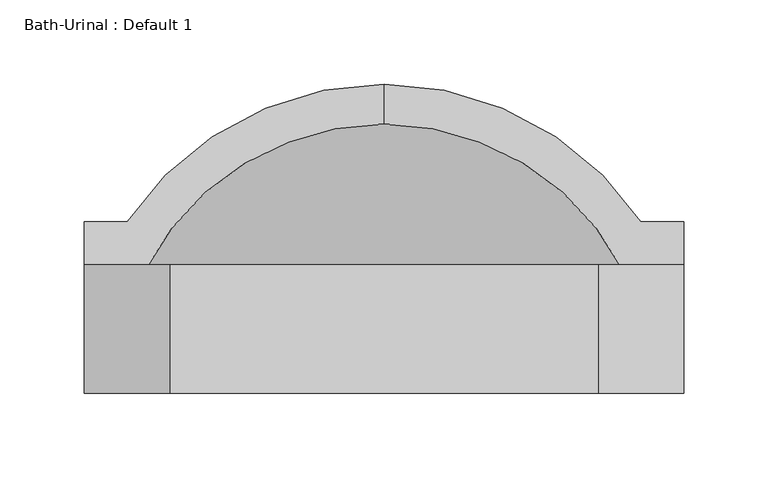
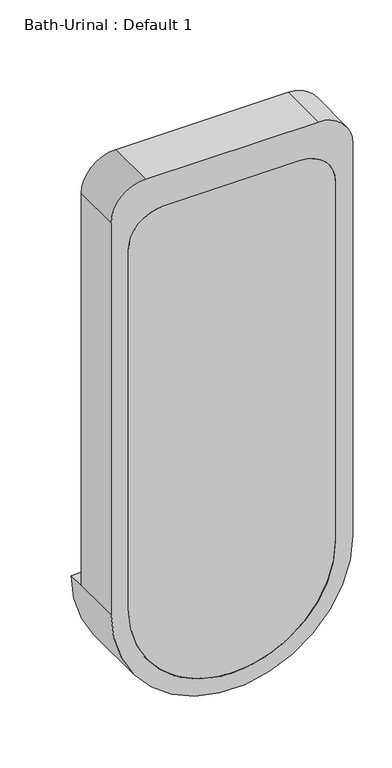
"""IFC4 building model written with IfcOpenShell, lengths in millimetres: flow terminal geometry, Bath-Urinal : Default 1."""

from ifc_helpers import new_model, si_unit, point, frame, frame_2d, origin, place, context, project, spatial, polyline, circle_curve, ellipse_curve, trimmed, segment, composite_curve, outline, extrude, source, transform, mapped, element, save
from ifc_brep_helpers import plane_surface, cylinder_surface, revolved_surface, advanced_brep


def bath_urinal_default_1_1685b878(model_context):
    return source(origin(), model_context, "Body", "SolidModel", [
        advanced_brep(
        [(-109.0745999, 348.2620048, 610.0), (-109.0745999, 324.5447043, 610.0), (43.3254001, 211.9706063, 610.0), (43.3254001, 241.3, 610.0), (68.7254001, 241.3, 610.0), (68.7254001, 266.7, 610.0), (43.3254001, 266.7, 610.0), (-261.4745999, 266.7, 610.0), (-286.8745999, 266.7, 610.0), (-286.8745999, 241.3, 610.0), (-261.4745999, 241.3, 610.0), (-261.4745999, 211.9706063, 610.0), (-261.4745999, 165.1, 610.0), (43.3254001, 165.1, 610.0), (-286.8745999, 165.1, 610.0), (68.7254001, 165.1, 610.0), (68.7254001, 165.1, 1219.6), (17.9254001, 165.1, 1270.4), (-236.0745999, 165.1, 1270.4), (-286.8745999, 165.1, 1219.6), (-261.4745999, 165.1, 1168.8), (-210.6745999, 165.1, 1219.6), (-7.4745999, 165.1, 1219.6), (43.3254001, 165.1, 1168.8), (43.3254001, 241.3, 1168.8), (-7.4745999, 241.3, 1219.6), (-210.6745999, 241.3, 1219.6), (-261.4745999, 241.3, 1168.8), (-286.8745999, 241.3, 1219.6), (-236.0745999, 241.3, 1270.4), (17.9254001, 241.3, 1270.4), (68.7254001, 241.3, 1219.6)],
        [
            (0, 1),
            (1, 2, circle_curve(frame((-109.0745999, 165.1, 610.0), z_axis=(0.0, 0.0, -1.0), x_axis=(1.0, 0.0, 0.0)), 159.4447043)),
            (2, 3),
            (3, 4),
            (4, 5),
            (5, 6),
            (6, 0, circle_curve(frame((-109.0745999, 165.1, 610.0), z_axis=(0.0, 0.0, 1.0), x_axis=(1.0, 0.0, 0.0)), 183.1620048)),
            (0, 7, circle_curve(frame((-109.0745999, 165.1, 610.0), z_axis=(0.0, 0.0, 1.0), x_axis=(-1.0, 0.0, 0.0)), 183.1620048)),
            (7, 8),
            (8, 9),
            (9, 10),
            (10, 11),
            (11, 1, circle_curve(frame((-109.0745999, 165.1, 610.0), z_axis=(0.0, 0.0, -1.0), x_axis=(-1.0, 0.0, 0.0)), 159.4447043)),
            (11, 2, circle_curve(frame((-109.0745999, 211.9706063, 610.0), z_axis=(0.0, -1.0, 0.0), x_axis=(1.0, 0.0, 0.0)), 152.4)),
            (11, 12),
            (12, 13, circle_curve(frame((-109.0745999, 165.1, 610.0), z_axis=(0.0, -1.0, 0.0), x_axis=(1.0, 0.0, 0.0)), 152.4)),
            (13, 2),
            (14, 15, circle_curve(frame((-109.0745999, 165.1, 610.0), z_axis=(0.0, -1.0, 0.0), x_axis=(1.0, 0.0, 0.0)), 177.8)),
            (15, 16),
            (16, 17, circle_curve(frame((17.9254001, 165.1, 1219.6), z_axis=(0.0, -1.0, 0.0), x_axis=(-1.0, 0.0, 0.0)), 50.8)),
            (17, 18),
            (18, 19, circle_curve(frame((-236.0745999, 165.1, 1219.6), z_axis=(0.0, -1.0, 0.0), x_axis=(-1.0, 0.0, 0.0)), 50.8)),
            (19, 14),
            (12, 20),
            (20, 21, circle_curve(frame((-210.6745999, 165.1, 1168.8), z_axis=(0.0, 1.0, 0.0), x_axis=(-1.0, 0.0, 0.0)), 50.8)),
            (21, 22),
            (22, 23, circle_curve(frame((-7.4745999, 165.1, 1168.8), z_axis=(0.0, 1.0, 0.0), x_axis=(-1.0, 0.0, 0.0)), 50.8)),
            (23, 13),
            (14, 9),
            (8, 5, circle_curve(frame((-109.0745999, 266.7, 610.0), z_axis=(0.0, -1.0, 0.0), x_axis=(1.0, 0.0, 0.0)), 177.8)),
            (4, 15),
            (7, 6, circle_curve(frame((-109.0745999, 266.7, 610.0), z_axis=(0.0, -1.0, 0.0), x_axis=(1.0, 0.0, 0.0)), 152.4)),
            (3, 24),
            (24, 25, circle_curve(frame((-7.4745999, 241.3, 1168.8), z_axis=(0.0, -1.0, 0.0), x_axis=(-1.0, 0.0, 0.0)), 50.8)),
            (25, 26),
            (26, 27, circle_curve(frame((-210.6745999, 241.3, 1168.8), z_axis=(0.0, -1.0, 0.0), x_axis=(-1.0, 0.0, 0.0)), 50.8)),
            (27, 10),
            (9, 28),
            (28, 29, circle_curve(frame((-236.0745999, 241.3, 1219.6), z_axis=(0.0, 1.0, 0.0), x_axis=(-1.0, 0.0, 0.0)), 50.8)),
            (29, 30),
            (30, 31, circle_curve(frame((17.9254001, 241.3, 1219.6), z_axis=(0.0, 1.0, 0.0), x_axis=(-1.0, 0.0, 0.0)), 50.8)),
            (31, 4),
            (23, 24),
            (22, 25),
            (21, 26),
            (20, 27),
            (19, 28),
            (18, 29),
            (17, 30),
            (16, 31),
        ],
        [
            plane_surface(frame((-109.0745999, 454.3104173, 610.0), z_axis=(0.0, 0.0, 1.0), x_axis=(1.0, 0.0, 0.0))),
            plane_surface(frame((-109.0745999, 454.3104173, 610.0), z_axis=(0.0, 0.0, 1.0), x_axis=(-1.0, 0.0, 0.0))),
            revolved_surface(trimmed(ellipse_curve(frame((-109.0745999, 165.1, 610.0), z_axis=(0.0, 0.0, -1.0), x_axis=(1.0, 0.0, 0.0)), 159.4447043, 159.4447043), [point((-109.0745999, 324.5447043, 610.0))], [point((43.3254001, 211.9706063, 610.0))], True, "CARTESIAN"), (-109.0745999, 454.3104173, 610.0), (0.0, 1.0, 0.0)),
            revolved_surface(polyline([(43.32540010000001, 211.9706063, 610.0), (43.32540010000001, 165.09999999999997, 610.0)]), (-109.0745999, 454.3104173, 610.0), (0.0, 1.0, 0.0)),
            plane_surface(frame((-109.0745999, 165.1, 610.0), z_axis=(0.0, -1.0, 0.0), x_axis=(1.0, 0.0, 0.0))),
            cylinder_surface(frame((-109.0745999, 454.3104173, 610.0), z_axis=(0.0, 1.0, 0.0), x_axis=(1.0, 0.0, 0.0)), 177.8),
            plane_surface(frame((-109.0745999, 266.7, 610.0), z_axis=(0.0, 1.0, 0.0), x_axis=(1.0, 0.0, 0.0))),
            revolved_surface(trimmed(ellipse_curve(frame((-109.0745999, 165.1, 610.0), z_axis=(0.0, 0.0, 1.0), x_axis=(1.0, 0.0, 0.0)), 183.1620048, 183.1620048), [point((43.3254001, 266.7, 610.0))], [point((-109.0745999, 348.2620048, 610.0))], True, "CARTESIAN"), (-109.0745999, 454.3104173, 610.0), (0.0, 1.0, 0.0)),
            plane_surface(frame((43.3254001, 241.3, 610.0), z_axis=(0.0, 1.0, 0.0), x_axis=(0.0, 0.0, 1.0))),
            plane_surface(frame((43.3254001, 241.3, 610.0), z_axis=(-1.0, 0.0, 0.0), x_axis=(0.0, -1.0, 0.0))),
            revolved_surface(polyline([(-58.2745999, 165.1, 1168.8), (-58.2745999, 241.3, 1168.8)]), (-7.4745999, 165.1, 1168.8), (0.0, -1.0, 0.0)),
            plane_surface(frame((-7.4745999, 241.3, 1219.6), z_axis=(0.0, 0.0, -1.0), x_axis=(0.0, -1.0, 0.0))),
            revolved_surface(polyline([(-261.4745999, 165.1, 1168.8), (-261.4745999, 241.3, 1168.8)]), (-210.6745999, 165.1, 1168.8), (0.0, -1.0, 0.0)),
            plane_surface(frame((-261.4745999, 241.3, 1168.8), z_axis=(1.0, 0.0, 0.0), x_axis=(0.0, -1.0, 0.0))),
            plane_surface(frame((-286.8745999, 241.3, 610.0), z_axis=(-1.0, 0.0, 0.0), x_axis=(0.0, -1.0, 0.0))),
            cylinder_surface(frame((-236.0745999, 165.1, 1219.6), z_axis=(0.0, 1.0, 0.0), x_axis=(-1.0, 0.0, 0.0)), 50.8),
            plane_surface(frame((-236.0745999, 241.3, 1270.4), z_axis=(0.0, 0.0, 1.0), x_axis=(0.0, -1.0, 0.0))),
            cylinder_surface(frame((17.9254001, 165.1, 1219.6), z_axis=(0.0, 1.0, 0.0), x_axis=(-1.0, 0.0, 0.0)), 50.8),
            plane_surface(frame((68.7254001, 241.3, 1219.6), z_axis=(1.0, 0.0, 0.0), x_axis=(0.0, -1.0, 0.0))),
        ],
        [
            (0, [[1, 2, 3, 4, 5, 6, 7]]),
            (1, [[-1, 8, 9, 10, 11, 12, 13]]),
            (2, [[-2, -13, 14]]),
            (3, [[-14, 15, 16, 17]]),
            (4, [[18, 19, 20, 21, 22, 23], [-16, 24, 25, 26, 27, 28]]),
            (5, [[-18, 29, -10, 30, -5, 31]]),
            (6, [[-6, -30, -9, 32]]),
            (7, [[-7, -32, -8]]),
            (8, [[33, 34, 35, 36, 37, -11, 38, 39, 40, 41, 42, -4]]),
            (9, [[-33, -3, -17, -28, 43]]),
            (10, [[-34, -43, -27, 44]]),
            (11, [[-35, -44, -26, 45]]),
            (12, [[-36, -45, -25, 46]]),
            (13, [[-37, -46, -24, -15, -12]]),
            (14, [[-38, -29, -23, 47]]),
            (15, [[-39, -47, -22, 48]]),
            (16, [[-40, -48, -21, 49]]),
            (17, [[-41, -49, -20, 50]]),
            (18, [[-42, -50, -19, -31]]),
        ],
    ),
        extrude(outline(composite_curve([segment(trimmed(circle_curve(frame_2d((1168.8, -7.4745999)), 50.8), [point((1168.8, 43.3254001))], [point((1219.6, -7.4745999))], False, "CARTESIAN"), True, "CONTINUOUS"), segment(polyline([(1219.6, -7.4745999), (1219.6, -210.6745999)]), True, "CONTINUOUS"), segment(trimmed(circle_curve(frame_2d((1168.8, -210.6745999)), 50.8), [point((1219.6, -210.6745999))], [point((1168.8, -261.4745999))], False, "CARTESIAN"), True, "CONTINUOUS"), segment(polyline([(1168.8, -261.4745999), (610.0, -261.4745999)]), True, "CONTINUOUS"), segment(trimmed(circle_curve(frame_2d((610.0, -109.0745999)), 152.4), [point((610.0, -261.4745999))], [point((610.0, 43.3254001))], False, "CARTESIAN"), True, "CONTINUOUS"), segment(polyline([(610.0, 43.3254001), (1168.8, 43.3254001)]), True, "CONTINUOUS")], self_intersect=False)), frame((0.0, 165.1, 0.0), z_axis=(0.0, 1.0, 0.0), x_axis=(0.0, 0.0, 1.0)), (0.0, 0.0, 1.0), 12.7),
    ])


if __name__ == "__main__":
    model = new_model("IFC4")
    model_context = context("Model", 3, world=origin())
    ifc_project = project(units=[si_unit("LENGTHUNIT", "METRE", prefix="MILLI")], contexts=[model_context])
    site = spatial("IfcSite", under=ifc_project)
    building = spatial("IfcBuilding", under=site)
    placement = place(None, origin())
    bath_urinal_default_1_shape = bath_urinal_default_1_1685b878(model_context)
    element("IfcFlowTerminal", 1, ObjectType="Bath-Urinal : Default 1", at=placement, inside=building, context=model_context, shape_type="MappedRepresentation", body=[
        mapped(bath_urinal_default_1_shape, transform((0.0, 0.0, 0.0), x_axis=(1.0, 0.0, 0.0), y_axis=(0.0, 1.0, 0.0), z_axis=(0.0, 0.0, 1.0))),
    ])
    save(model, "model.ifc")
